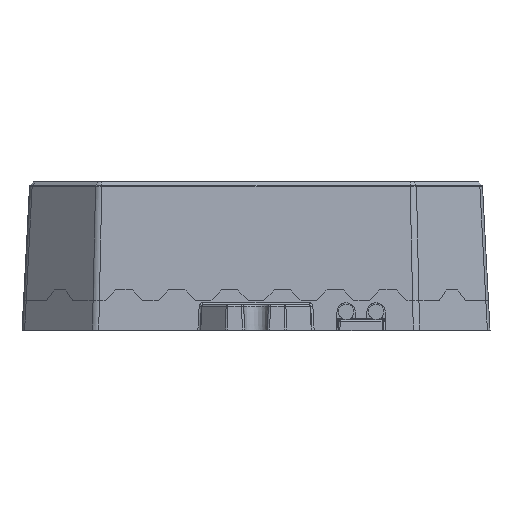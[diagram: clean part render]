
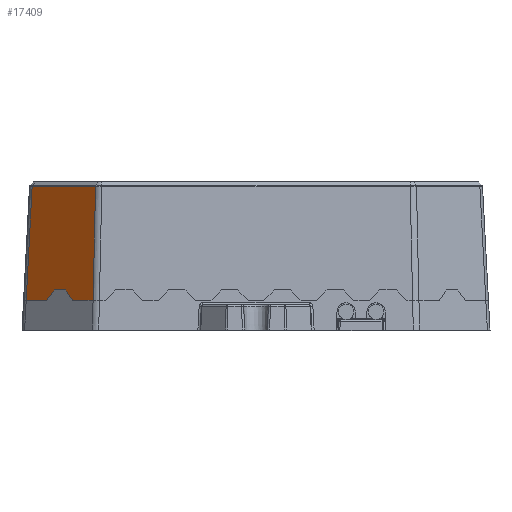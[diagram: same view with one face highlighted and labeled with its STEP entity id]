
A CAD part, top view. The second image highlights one B-rep face of the part: STEP entity #17409.
In plain terms, the highlighted planar face has unit normal (-0.706, 0.052, 0.706).
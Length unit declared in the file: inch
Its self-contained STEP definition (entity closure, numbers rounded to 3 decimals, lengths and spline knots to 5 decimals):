
#187 = VECTOR ( 'NONE', #837, 39.37008 ) ;
#635 = VERTEX_POINT ( 'NONE', #20106 ) ;
#837 = DIRECTION ( 'NONE',  ( 0.707, 0., 0.707 ) ) ;
#1144 = ORIENTED_EDGE ( 'NONE', *, *, #14420, .T. ) ;
#1480 = CARTESIAN_POINT ( 'NONE',  ( -1.2761, 0.27, 0.99889 ) ) ;
#1498 = B_SPLINE_CURVE_WITH_KNOTS ( 'NONE', 3,
 ( #8888, #22700, #14860, #3040, #16867, #5021, #18902 ),
 .UNSPECIFIED., .F., .F.,
 ( 4, 3, 4 ),
 ( 0., 0., 0. ),
 .UNSPECIFIED. ) ;
#1516 = CARTESIAN_POINT ( 'NONE',  ( -1.55999, 0.27, 0.71499 ) ) ;
#2400 = VERTEX_POINT ( 'NONE', #23250 ) ;
#2468 = ORIENTED_EDGE ( 'NONE', *, *, #20592, .T. ) ;
#2966 = VECTOR ( 'NONE', #16880, 39.37008 ) ;
#3040 = CARTESIAN_POINT ( 'NONE',  ( -1.50199, 0.96259, 0.72167 ) ) ;
#3172 = VECTOR ( 'NONE', #20425, 39.37008 ) ;
#3231 = VERTEX_POINT ( 'NONE', #22102 ) ;
#3553 = VERTEX_POINT ( 'NONE', #11434 ) ;
#3754 = EDGE_CURVE ( 'NONE', #18223, #3553, #14084, .T. ) ;
#3891 = VERTEX_POINT ( 'NONE', #6814 ) ;
#4191 = CARTESIAN_POINT ( 'NONE',  ( -1.07671, 0.96259, 1.14694 ) ) ;
#4247 = AXIS2_PLACEMENT_3D ( 'NONE', #19160, #9231, #23123 ) ;
#4779 = VECTOR ( 'NONE', #19597, 39.37008 ) ;
#5021 = CARTESIAN_POINT ( 'NONE',  ( -1.502, 0.96259, 0.72166 ) ) ;
#5029 = CARTESIAN_POINT ( 'NONE',  ( -1.31984, 0.33528, 0.95031 ) ) ;
#5212 = ORIENTED_EDGE ( 'NONE', *, *, #13221, .T. ) ;
#5693 = CARTESIAN_POINT ( 'NONE',  ( -1.56259, 0.2, 0.71759 ) ) ;
#5837 = ORIENTED_EDGE ( 'NONE', *, *, #8717, .T. ) ;
#6533 = CARTESIAN_POINT ( 'NONE',  ( -1.55248, -0.00054, 0.74256 ) ) ;
#6814 = CARTESIAN_POINT ( 'NONE',  ( -1.09321, 0.2, 1.18697 ) ) ;
#7424 = VECTOR ( 'NONE', #17316, 39.37008 ) ;
#7521 = EDGE_CURVE ( 'NONE', #17887, #18223, #15268, .T. ) ;
#7910 = CARTESIAN_POINT ( 'NONE',  ( -1.2292, 0.2, 1.05098 ) ) ;
#8181 = LINE ( 'NONE', #5029, #2966 ) ;
#8249 = ORIENTED_EDGE ( 'NONE', *, *, #11963, .T. ) ;
#8717 = EDGE_CURVE ( 'NONE', #635, #2400, #21169, .T. ) ;
#8888 = CARTESIAN_POINT ( 'NONE',  ( -1.50191, 0.96259, 0.72174 ) ) ;
#9231 = DIRECTION ( 'NONE',  ( -0.706, 0.052, 0.706 ) ) ;
#9438 = CARTESIAN_POINT ( 'NONE',  ( -1.502, 0.96259, 0.72165 ) ) ;
#9973 = LINE ( 'NONE', #12618, #187 ) ;
#10116 = VERTEX_POINT ( 'NONE', #9438 ) ;
#10579 = ORIENTED_EDGE ( 'NONE', *, *, #24990, .T. ) ;
#11434 = CARTESIAN_POINT ( 'NONE',  ( -1.35389, 0.27, 0.9211 ) ) ;
#11963 = EDGE_CURVE ( 'NONE', #22187, #3891, #9973, .T. ) ;
#12321 = CARTESIAN_POINT ( 'NONE',  ( -1.56279, -0.01073, 0.733 ) ) ;
#12618 = CARTESIAN_POINT ( 'NONE',  ( -1.56259, 0.2, 0.71759 ) ) ;
#12834 = ORIENTED_EDGE ( 'NONE', *, *, #3754, .T. ) ;
#13047 = B_SPLINE_CURVE_WITH_KNOTS ( 'NONE', 3,
 ( #14033, #16037, #4191, #18044 ),
 .UNSPECIFIED., .F., .F.,
 ( 4, 4 ),
 ( 0., 0. ),
 .UNSPECIFIED. ) ;
#13221 = EDGE_CURVE ( 'NONE', #10116, #17887, #19607, .T. ) ;
#14033 = CARTESIAN_POINT ( 'NONE',  ( -1.07665, 0.96259, 1.147 ) ) ;
#14084 = LINE ( 'NONE', #12321, #24657 ) ;
#14398 = EDGE_LOOP ( 'NONE', ( #5212, #17810, #12834, #18941, #2468, #8249, #19853, #10579, #5837, #1144 ) ) ;
#14420 = EDGE_CURVE ( 'NONE', #2400, #10116, #1498, .T. ) ;
#14860 = CARTESIAN_POINT ( 'NONE',  ( -1.50197, 0.96259, 0.72169 ) ) ;
#15268 = LINE ( 'NONE', #5693, #4779 ) ;
#15847 = VECTOR ( 'NONE', #22673, 39.37008 ) ;
#16037 = CARTESIAN_POINT ( 'NONE',  ( -1.07668, 0.96259, 1.14697 ) ) ;
#16064 = EDGE_CURVE ( 'NONE', #3891, #3231, #22225, .T. ) ;
#16867 = CARTESIAN_POINT ( 'NONE',  ( -1.502, 0.96259, 0.72166 ) ) ;
#16880 = DIRECTION ( 'NONE',  ( 0.473, -0.707, 0.526 ) ) ;
#17133 = PLANE ( 'NONE',  #4247 ) ;
#17316 = DIRECTION ( 'NONE',  ( 0.707, 0., 0.707 ) ) ;
#17361 = LINE ( 'NONE', #1516, #7424 ) ;
#17409 = ADVANCED_FACE ( 'NONE', ( #23077 ), #17133, .T. ) ;
#17810 = ORIENTED_EDGE ( 'NONE', *, *, #7521, .T. ) ;
#17887 = VERTEX_POINT ( 'NONE', #23296 ) ;
#18044 = CARTESIAN_POINT ( 'NONE',  ( -1.07674, 0.96259, 1.14692 ) ) ;
#18223 = VERTEX_POINT ( 'NONE', #20352 ) ;
#18358 = DIRECTION ( 'NONE',  ( 0.526, 0.707, 0.473 ) ) ;
#18902 = CARTESIAN_POINT ( 'NONE',  ( -1.502, 0.96259, 0.72165 ) ) ;
#18941 = ORIENTED_EDGE ( 'NONE', *, *, #23041, .T. ) ;
#19160 = CARTESIAN_POINT ( 'NONE',  ( -1.57, 0., 0.725 ) ) ;
#19597 = DIRECTION ( 'NONE',  ( 0.707, 0., 0.707 ) ) ;
#19607 = LINE ( 'NONE', #6533, #3172 ) ;
#19853 = ORIENTED_EDGE ( 'NONE', *, *, #16064, .T. ) ;
#20106 = CARTESIAN_POINT ( 'NONE',  ( -1.07674, 0.96259, 1.14692 ) ) ;
#20352 = CARTESIAN_POINT ( 'NONE',  ( -1.40598, 0.2, 0.8742 ) ) ;
#20425 = DIRECTION ( 'NONE',  ( -0.052, -0.998, 0.022 ) ) ;
#20592 = EDGE_CURVE ( 'NONE', #23539, #22187, #8181, .T. ) ;
#20686 = CARTESIAN_POINT ( 'NONE',  ( -1.53433, 0.96259, 0.68933 ) ) ;
#20884 = DIRECTION ( 'NONE',  ( 0.022, 0.998, -0.052 ) ) ;
#21169 = LINE ( 'NONE', #20686, #15847 ) ;
#22102 = CARTESIAN_POINT ( 'NONE',  ( -1.07665, 0.96259, 1.147 ) ) ;
#22187 = VERTEX_POINT ( 'NONE', #7910 ) ;
#22225 = LINE ( 'NONE', #22874, #22856 ) ;
#22673 = DIRECTION ( 'NONE',  ( -0.707, 0., -0.707 ) ) ;
#22700 = CARTESIAN_POINT ( 'NONE',  ( -1.50194, 0.96259, 0.72172 ) ) ;
#22856 = VECTOR ( 'NONE', #20884, 39.37008 ) ;
#22874 = CARTESIAN_POINT ( 'NONE',  ( -1.07585, 0.99946, 1.14507 ) ) ;
#23041 = EDGE_CURVE ( 'NONE', #3553, #23539, #17361, .T. ) ;
#23077 = FACE_OUTER_BOUND ( 'NONE', #14398, .T. ) ;
#23123 = DIRECTION ( 'NONE',  ( 0.707, 0., 0.707 ) ) ;
#23250 = CARTESIAN_POINT ( 'NONE',  ( -1.50191, 0.96259, 0.72174 ) ) ;
#23296 = CARTESIAN_POINT ( 'NONE',  ( -1.54197, 0.2, 0.73821 ) ) ;
#23539 = VERTEX_POINT ( 'NONE', #1480 ) ;
#24657 = VECTOR ( 'NONE', #18358, 39.37008 ) ;
#24990 = EDGE_CURVE ( 'NONE', #3231, #635, #13047, .T. ) ;
